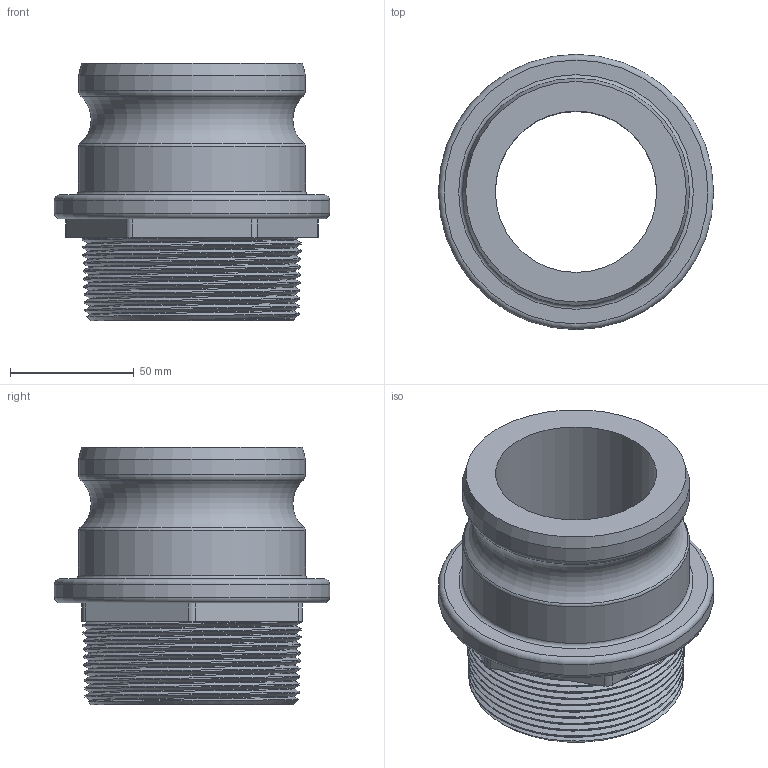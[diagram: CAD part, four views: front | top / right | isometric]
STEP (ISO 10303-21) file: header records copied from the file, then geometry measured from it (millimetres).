
FILE_DESCRIPTION(/* description */ ('Alibre Inc.'),/* implementation_level */ '2;1');
FILE_NAME(/* name */ 'export0',/* time_stamp */ '2016-03-10T17:56:40-05:00',/* author */ (''),/* organization */ (''),/* preprocessor_version */ 'ST-DEVELOPER v14',/* originating_system */ 'Alibre',/* authorisation */ '');
FILE_SCHEMA (('CONFIG_CONTROL_DESIGN'));
Length unit declared in the file: centimetre
Products named in the file (1): ID_2
Bounding box: 111 x 111 x 103.89 mm (x, y, z)
Volume: 320423.7 mm3; surface area: 68538.5 mm2
Topology: 1 solids, 1 shells, 56 faces, 146 edges, 95 vertices
Faces by surface type: cone 26, plane 11, cylinder 10, torus 6, bspline 3
Full cylindrical faces by diameter (mm): 65.024 x1, 91.542 x2, 110.998 x1
Entity records: 40094 total; most frequent: CARTESIAN_POINT 38784, ORIENTED_EDGE 268, DIRECTION 200, EDGE_CURVE 134, VERTEX_POINT 94, AXIS2_PLACEMENT_3D 85, EDGE_LOOP 72, FACE_BOUND 72
